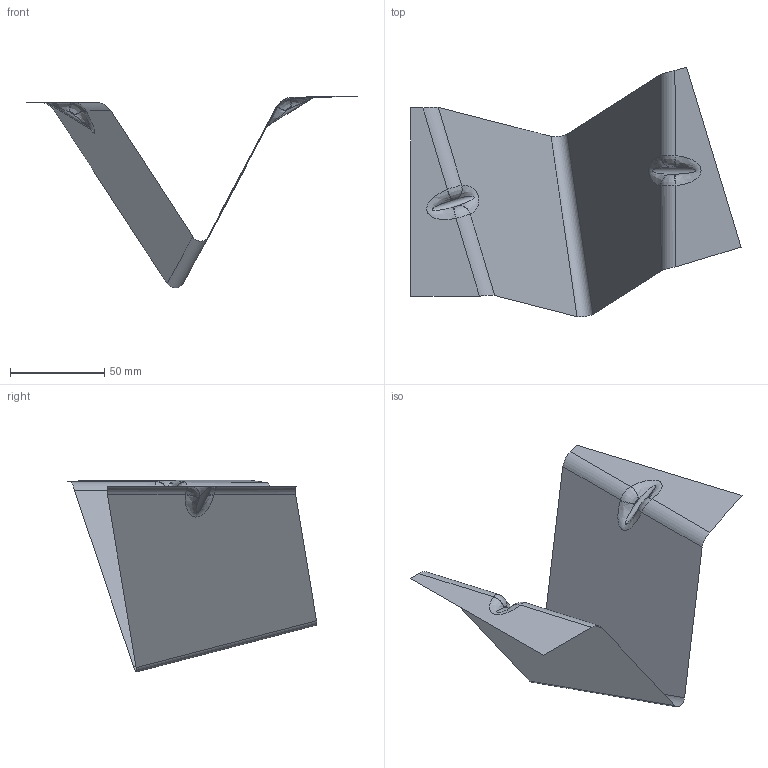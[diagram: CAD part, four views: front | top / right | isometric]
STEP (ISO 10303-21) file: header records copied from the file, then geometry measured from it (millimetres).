
FILE_DESCRIPTION(('CATIA V5 STEP Exchange'),'2;1');
FILE_NAME('C:\_Andres\UNIVERSIDAD\IQS\ASIGNATURAS\DAO\EXF\EXF-16172c\2inicio\Sanz_Alvarez_Ej03_v31.stp','2017-03-05T19:32:31+00:00',('none'),('none'),'CATIA Version 5-6 Release 2014 SP1 HF18','CATIA V5 STEP AP203','none');
FILE_SCHEMA(('CONFIG_CONTROL_DESIGN'));
Length unit declared in the file: millimetre
Products named in the file (1): Sanz_Alvarez_Ej03_v31
Bounding box: 175.66 x 132.71 x 102.01 mm (x, y, z)
Surface area: 26633.7 mm2 (no closed solid volume)
Topology: 0 solids, 1 shells, 31 faces, 78 edges, 48 vertices
Faces by surface type: cylinder 15, plane 8, bspline 8
Entity records: 2527 total; most frequent: CARTESIAN_POINT 1854, ORIENTED_EDGE 140, DIRECTION 90, EDGE_CURVE 78, VERTEX_POINT 48, VECTOR 40, LINE 40, ADVANCED_FACE 31
